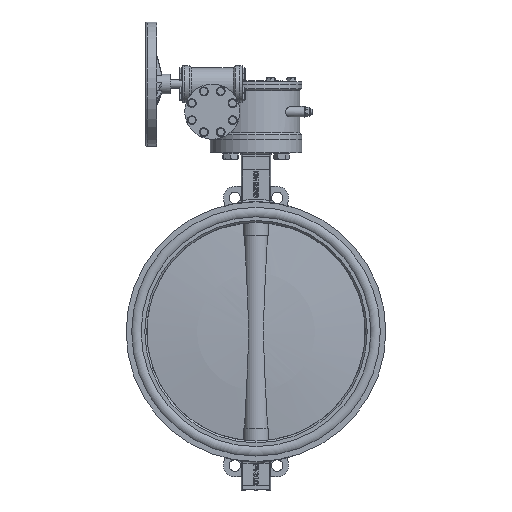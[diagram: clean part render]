
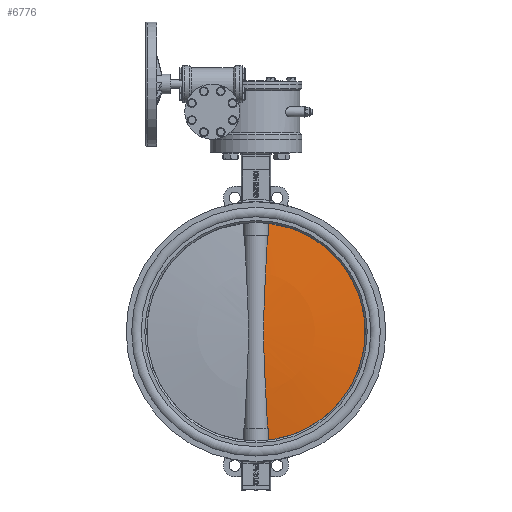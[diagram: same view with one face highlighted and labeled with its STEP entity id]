
A CAD part, left-side view. The second image highlights one B-rep face of the part: STEP entity #6776.
In plain terms, the highlighted spherical face has radius 2200.11 mm.
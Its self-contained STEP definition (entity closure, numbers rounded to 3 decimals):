
#6776=ADVANCED_FACE('',(#13544),#13546,.T.);
#13544=FACE_BOUND('',#13545,.T.);
#13545=EDGE_LOOP('',(#22645,#22646,#22647,#22648,#22649,#22650));
#13546=SPHERICAL_SURFACE('',#13547,2200.107);
#13547=AXIS2_PLACEMENT_3D('',#13548,#13549,#13550);
#13548=CARTESIAN_POINT('',(0.,-2177.107,0.));
#13549=DIRECTION('',(0.,-1.,0.));
#13550=DIRECTION('',(0.,0.,1.));
#22645=ORIENTED_EDGE('',*,*,#25178,.F.);
#22646=ORIENTED_EDGE('',*,*,#25182,.T.);
#22647=ORIENTED_EDGE('',*,*,#25165,.F.);
#22648=ORIENTED_EDGE('',*,*,#25196,.F.);
#22649=ORIENTED_EDGE('',*,*,#25197,.T.);
#22650=ORIENTED_EDGE('',*,*,#25198,.F.);
#25165=EDGE_CURVE('',#27624,#27626,#27627,.T.);
#25178=EDGE_CURVE('',#27650,#27652,#27653,.F.);
#25182=EDGE_CURVE('',#27650,#27626,#27658,.T.);
#25196=EDGE_CURVE('',#27677,#27624,#27679,.T.);
#25197=EDGE_CURVE('',#27677,#27680,#27681,.T.);
#25198=EDGE_CURVE('',#27652,#27680,#27682,.T.);
#27624=VERTEX_POINT('',#35152);
#27626=VERTEX_POINT('',#35157);
#27627=B_SPLINE_CURVE_WITH_KNOTS('',3,
(#35158,#35159,#35160,#35161,#35162,#35163,#35164,#35165,#35166,#35167,#35168),
.UNSPECIFIED.,.F.,.F.,
(4,1,1,1,1,1,1,1,4),
(0.,0.124,0.249,0.374,0.499,0.624,
0.749,0.874,1.),
.UNSPECIFIED.);
#27650=VERTEX_POINT('',#35371);
#27652=VERTEX_POINT('',#35391);
#27653=B_SPLINE_CURVE_WITH_KNOTS('',3,
(#35392,#35393,#35394,#35395,#35396,#35397,#35398,#35399,#35400,#35401,#35402),
.UNSPECIFIED.,.F.,.F.,
(4,1,1,1,1,1,1,1,4),
(0.,0.124,0.249,0.374,0.499,0.624,
0.749,0.874,1.),
.UNSPECIFIED.);
#27658=CIRCLE('',#35423,250.);
#27677=VERTEX_POINT('',#35577);
#27679=CIRCLE('',#35582,2189.043);
#27680=VERTEX_POINT('',#35586);
#27681=B_SPLINE_CURVE_WITH_KNOTS('',3,
(#35587,#35588,#35589,#35590,#35591,#35592,#35593,#35594,#35595,#35596,#35597,#35598,
#35599,#35600,#35601,#35602,#35603,#35604,#35605,#35606,#35607,#35608,#35609,#35610,
#35611,#35612,#35613,#35614,#35615,#35616,#35617,#35618,#35619,#35620,#35621,#35622),
.UNSPECIFIED.,.F.,.F.,
(4,1,1,1,1,1,1,1,1,1,1,1,1,1,1,1,1,1,1,1,1,1,1,1,1,1,1,1,1,1,1,1,1,4),
(0.,0.031,0.058,0.093,0.143,0.192,
0.231,0.262,0.291,0.318,0.338,
0.359,0.381,0.403,0.426,0.45,
0.475,0.5,0.5,0.526,0.553,
0.582,0.612,0.643,0.675,0.709,
0.743,0.777,0.813,0.849,0.886,
0.924,0.962,1.),
.UNSPECIFIED.);
#27682=CIRCLE('',#35623,2189.043);
#35152=CARTESIAN_POINT('',(-27.776,11.76,220.367));
#35157=CARTESIAN_POINT('',(-28.865,8.75,248.328));
#35158=CARTESIAN_POINT('',(-27.776,11.76,220.367));
#35159=CARTESIAN_POINT('',(-27.825,11.642,221.528));
#35160=CARTESIAN_POINT('',(-27.924,11.405,223.85));
#35161=CARTESIAN_POINT('',(-28.069,11.044,227.335));
#35162=CARTESIAN_POINT('',(-28.21,10.677,230.824));
#35163=CARTESIAN_POINT('',(-28.349,10.304,234.317));
#35164=CARTESIAN_POINT('',(-28.484,9.925,237.815));
#35165=CARTESIAN_POINT('',(-28.615,9.539,241.316));
#35166=CARTESIAN_POINT('',(-28.743,9.148,244.821));
#35167=CARTESIAN_POINT('',(-28.825,8.883,247.159));
#35168=CARTESIAN_POINT('',(-28.865,8.75,248.328));
#35371=CARTESIAN_POINT('',(-28.865,8.75,-248.328));
#35391=CARTESIAN_POINT('',(-27.776,11.76,-220.367));
#35392=CARTESIAN_POINT('',(-27.776,11.76,-220.367));
#35393=CARTESIAN_POINT('',(-27.825,11.642,-221.528));
#35394=CARTESIAN_POINT('',(-27.924,11.405,-223.85));
#35395=CARTESIAN_POINT('',(-28.069,11.044,-227.335));
#35396=CARTESIAN_POINT('',(-28.21,10.677,-230.824));
#35397=CARTESIAN_POINT('',(-28.349,10.304,-234.317));
#35398=CARTESIAN_POINT('',(-28.484,9.925,-237.815));
#35399=CARTESIAN_POINT('',(-28.615,9.539,-241.316));
#35400=CARTESIAN_POINT('',(-28.743,9.148,-244.821));
#35401=CARTESIAN_POINT('',(-28.825,8.883,-247.159));
#35402=CARTESIAN_POINT('',(-28.865,8.75,-248.328));
#35423=AXIS2_PLACEMENT_3D('',#35424,#35425,#35426);
#35424=CARTESIAN_POINT('',(0.,8.75,0.));
#35425=DIRECTION('',(0.,1.,0.));
#35426=DIRECTION('',(-0.115,0.,-0.993));
#35577=CARTESIAN_POINT('',(-26.352,11.777,220.367));
#35582=AXIS2_PLACEMENT_3D('',#35583,#35584,#35585);
#35583=CARTESIAN_POINT('',(0.,-2177.107,220.367));
#35584=DIRECTION('',(0.,0.,1.));
#35585=DIRECTION('',(-0.012,1.,0.));
#35586=CARTESIAN_POINT('',(-26.352,11.777,-220.367));
#35587=CARTESIAN_POINT('',(-26.352,11.777,220.367));
#35588=CARTESIAN_POINT('',(-26.149,12.23,215.892));
#35589=CARTESIAN_POINT('',(-25.753,13.057,207.464));
#35590=CARTESIAN_POINT('',(-25.074,14.321,193.774));
#35591=CARTESIAN_POINT('',(-24.223,15.732,177.368));
#35592=CARTESIAN_POINT('',(-23.16,17.264,157.582));
#35593=CARTESIAN_POINT('',(-22.071,18.623,137.413));
#35594=CARTESIAN_POINT('',(-21.155,19.647,119.893));
#35595=CARTESIAN_POINT('',(-20.436,20.39,105.449));
#35596=CARTESIAN_POINT('',(-19.839,20.97,92.671));
#35597=CARTESIAN_POINT('',(-19.353,21.417,81.399));
#35598=CARTESIAN_POINT('',(-18.955,21.769,71.296));
#35599=CARTESIAN_POINT('',(-18.621,22.055,61.972));
#35600=CARTESIAN_POINT('',(-18.32,22.306,52.44));
#35601=CARTESIAN_POINT('',(-18.054,22.521,42.606));
#35602=CARTESIAN_POINT('',(-17.833,22.696,32.475));
#35603=CARTESIAN_POINT('',(-17.663,22.828,21.953));
#35604=CARTESIAN_POINT('',(-17.556,22.911,11.14));
#35605=CARTESIAN_POINT('',(-17.531,22.93,3.774));
#35606=CARTESIAN_POINT('',(-17.53,22.93,-3.786));
#35607=CARTESIAN_POINT('',(-17.558,22.909,-11.68));
#35608=CARTESIAN_POINT('',(-17.684,22.812,-23.787));
#35609=CARTESIAN_POINT('',(-17.907,22.638,-36.416));
#35610=CARTESIAN_POINT('',(-18.232,22.378,-49.619));
#35611=CARTESIAN_POINT('',(-18.659,22.025,-63.301));
#35612=CARTESIAN_POINT('',(-19.19,21.565,-77.558));
#35613=CARTESIAN_POINT('',(-19.814,20.995,-92.197));
#35614=CARTESIAN_POINT('',(-20.52,20.308,-107.219));
#35615=CARTESIAN_POINT('',(-21.291,19.501,-122.529));
#35616=CARTESIAN_POINT('',(-22.117,18.561,-138.227));
#35617=CARTESIAN_POINT('',(-22.977,17.488,-154.213));
#35618=CARTESIAN_POINT('',(-23.854,16.275,-170.49));
#35619=CARTESIAN_POINT('',(-24.725,14.924,-186.959));
#35620=CARTESIAN_POINT('',(-25.569,13.43,-203.619));
#35621=CARTESIAN_POINT('',(-26.098,12.344,-214.769));
#35622=CARTESIAN_POINT('',(-26.352,11.777,-220.367));
#35623=AXIS2_PLACEMENT_3D('',#35624,#35625,#35626);
#35624=CARTESIAN_POINT('',(0.,-2177.107,-220.367));
#35625=DIRECTION('',(0.,0.,-1.));
#35626=DIRECTION('',(-0.013,1.,0.));
